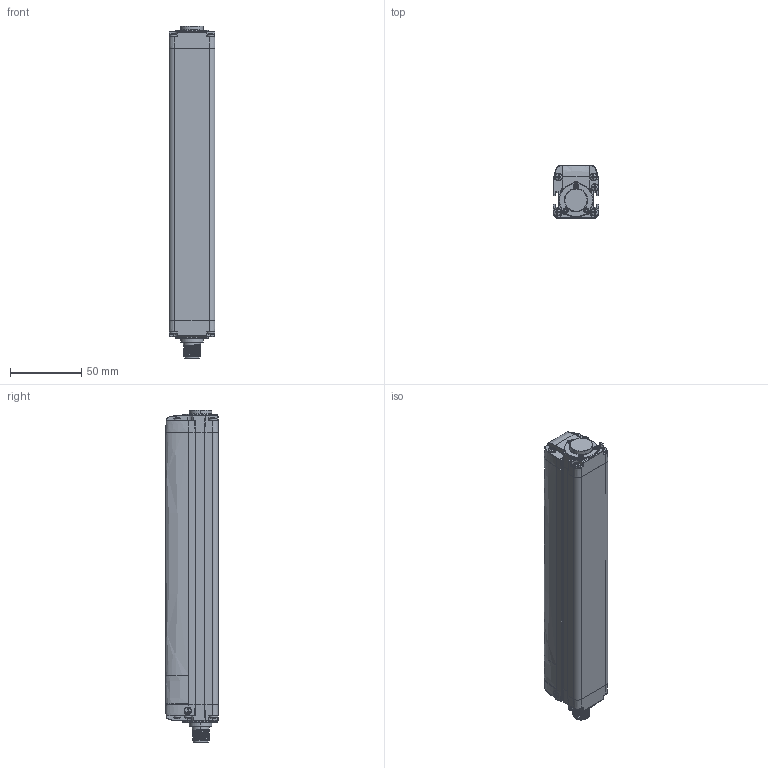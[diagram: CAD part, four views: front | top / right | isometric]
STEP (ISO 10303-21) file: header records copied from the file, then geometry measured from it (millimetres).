
FILE_DESCRIPTION((''),'2;1');
FILE_NAME('2008567','2011-03-28T',('rink'),(''),'PRO/ENGINEER BY PARAMETRIC TECHNOLOGY CORPORATION, 2009380','PRO/ENGINEER BY PARAMETRIC TECHNOLOGY CORPORATION, 2009380','');
FILE_SCHEMA(('AUTOMOTIVE_DESIGN_CC2 { 1 2 10303 214 -1 1 5 2 }'));
Products named in the file (1): 2008567
Bounding box: 32.3 x 37.08 x 233.34 mm (x, y, z)
Volume: 198274.7 mm3; surface area: 58827.1 mm2
Topology: 17 solids, 179 shells, 1792 faces, 4780 edges, 2982 vertices
Faces by surface type: cylinder 671, plane 406, torus 278, bspline 215, sphere 124, extrusion 56, cone 42
Entity records: 84642 total; most frequent: CARTESIAN_POINT 26896, DIRECTION 9020, ORIENTED_EDGE 8298, PRESENTATION_STYLE_ASSIGNMENT 4860, STYLED_ITEM 4855, CURVE_STYLE 4676, EDGE_CURVE 4671, AXIS2_PLACEMENT_3D 3744
